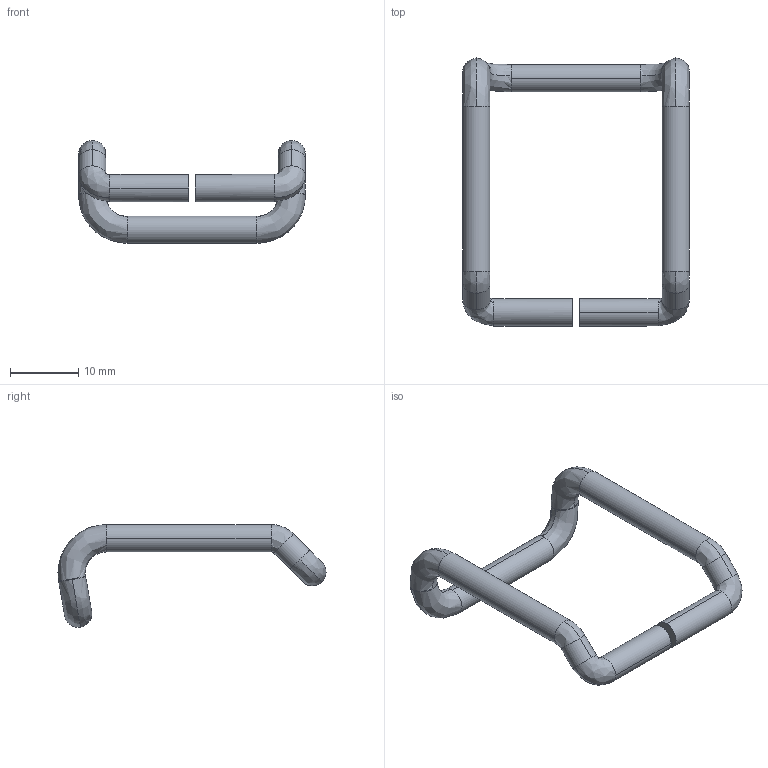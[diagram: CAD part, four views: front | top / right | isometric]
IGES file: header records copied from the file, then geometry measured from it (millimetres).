
Start section: SolidWorks IGES FILE using analytic representation for surfaces
Global section: file name: C:\WINNT\Profiles\cbrechard\Bureau\GE 44\44.200.00.IGS; native system: SolidWorks 2001Plus by SolidWorks Corporation; preprocessor: Version 5.3; author: CBRECHARD; date: 050125.133306; units: millimetre
Bounding box: 33.17 x 39.18 x 15.04 mm (x, y, z)
Surface area: 1820.7 mm2 (no closed solid volume)
Topology: 0 solids, 0 shells, 36 faces, 248 edges, 248 vertices
Faces by surface type: bspline 18, revolution 18
